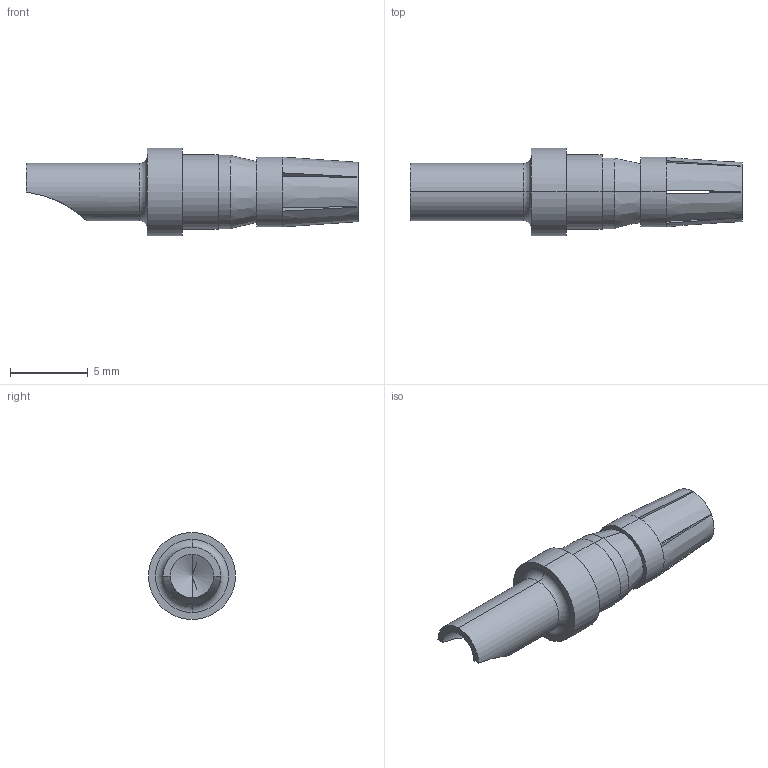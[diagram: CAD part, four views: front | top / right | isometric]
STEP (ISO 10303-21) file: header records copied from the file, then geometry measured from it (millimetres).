
FILE_DESCRIPTION (( 'STEP AP203' ), '1' );
FILE_NAME ('LB-FE2002G00B.STEP', '2019-03-22T03:19:15', ( '' ), ( '' ), 'SwSTEP 2.0', 'SolidWorks 2011', '' );
FILE_SCHEMA (( 'CONFIG_CONTROL_DESIGN' ));
Length unit declared in the file: millimetre
Products named in the file (1): LB-FE2002G00B
Bounding box: 21.35 x 5.6 x 5.6 mm (x, y, z)
Volume: 137.9 mm3; surface area: 515.4 mm2
Topology: 1 solids, 1 shells, 61 faces, 153 edges, 95 vertices
Faces by surface type: plane 32, cylinder 16, cone 11, torus 2
Entity records: 2001 total; most frequent: CARTESIAN_POINT 478, DIRECTION 316, ORIENTED_EDGE 302, EDGE_CURVE 151, AXIS2_PLACEMENT_3D 131, VERTEX_POINT 95, CIRCLE 69, EDGE_LOOP 66
